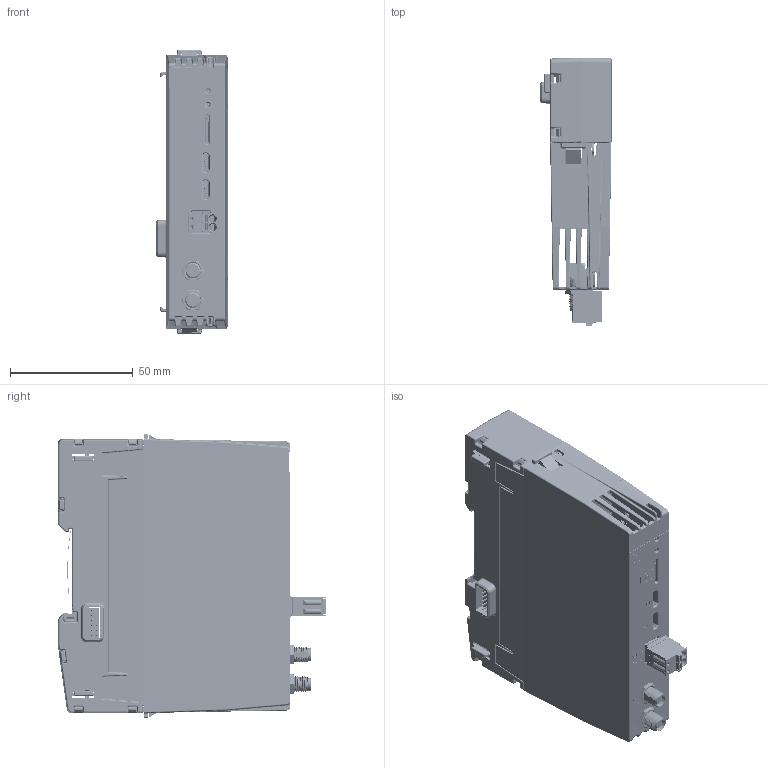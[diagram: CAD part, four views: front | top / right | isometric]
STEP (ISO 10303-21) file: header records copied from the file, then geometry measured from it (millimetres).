
FILE_DESCRIPTION(/* description */ (''),/* implementation_level */ '2;1');
FILE_NAME(/* name */ 'C:\Users\Public\Documents\Autodesk\Inventor 2023\IM51A_Simplified+BB81B.stp',/* time_stamp */ '2024-10-22T20:41:19+02:00',/* author */ ('shoma'),/* organization */ (''),/* preprocessor_version */ 'ST-DEVELOPER v19',/* originating_system */ 'Autodesk Inventor 2023',/* authorisation */ '');
FILE_SCHEMA (('AUTOMOTIVE_DESIGN { 1 0 10303 214 3 1 1 }'));
Products named in the file (1): IM51A_Simplified+BB81B
Bounding box: 28.9 x 109.34 x 115.5 mm (x, y, z)
Volume: 114625.8 mm3; surface area: 79076.9 mm2
Topology: 12 solids, 14 shells, 6922 faces, 18904 edges, 11936 vertices
Faces by surface type: plane 3860, cylinder 2096, bspline 714, sphere 168, cone 58, torus 26
Full cylindrical faces by diameter (mm): 0.296 x1, 0.3 x195, 0.457 x1, 0.7 x36, 0.8 x8, 0.85 x24, 0.9 x8, 1.1 x6, 1.17 x2, 1.2 x2, 1.25 x2, 1.3 x2, 1.4 x4, 1.6 x4, 1.7 x8, 2.35 x2, 2.5 x1, 2.7 x1, 3 x1, 3.1 x2, 3.25 x2, 4 x1, 5 x2, 5.25 x2, 6.35 x4, 6.8 x2
Entity records: 271259 total; most frequent: CARTESIAN_POINT 89959, ORIENTED_EDGE 37509, DIRECTION 34543, EDGE_CURVE 18756, LINE 12827, VECTOR 12827, VERTEX_POINT 11936, AXIS2_PLACEMENT_3D 10858
